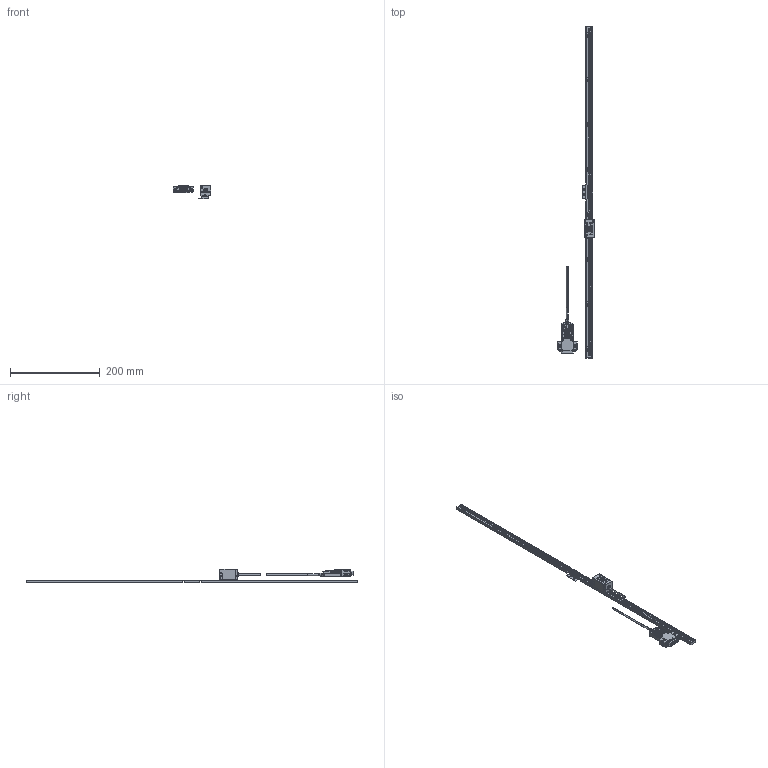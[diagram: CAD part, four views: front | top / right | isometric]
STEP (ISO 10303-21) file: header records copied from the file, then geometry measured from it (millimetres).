
FILE_DESCRIPTION(('Creo Elements/Direct Modeling STEP Export'),'2;1');
FILE_NAME('ST1300-700F_G.stp','2022-08-16T10:11:13',(''),(''),'Creo Elements/Direct Modeling STEP processor for AP214 (Solid Model)','Creo Elements/Direct Modeling 18.1I 13-Aug-2016 (C) Parametric Technology GmbH','');
FILE_SCHEMA(('AUTOMOTIVE_DESIGN { 1 0 10303 214 1 1 1 1 }'));
Products named in the file (4): Connector; Scale_700; Detector_Head; ST1300-700F_G
Assembly tree (3 placements, depth 2):
  ST1300-700F_G
    Detector_Head
    Scale_700
    Connector
Bounding box: 83 x 740 x 30.1 mm (x, y, z)
Volume: 80223.4 mm3; surface area: 52193 mm2
Topology: 2 solids, 6 shells, 3425 faces, 9456 edges, 6177 vertices
Faces by surface type: plane 1628, cylinder 1523, extrusion 134, cone 87, torus 26, bspline 23, revolution 4
Entity records: 114445 total; most frequent: CARTESIAN_POINT 26161, ORIENTED_EDGE 18896, DIRECTION 17959, EDGE_CURVE 9444, VERTEX_POINT 6177, AXIS2_PLACEMENT_3D 6077, VECTOR 5799, LINE 5693
